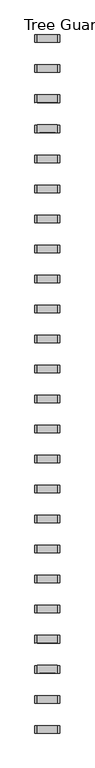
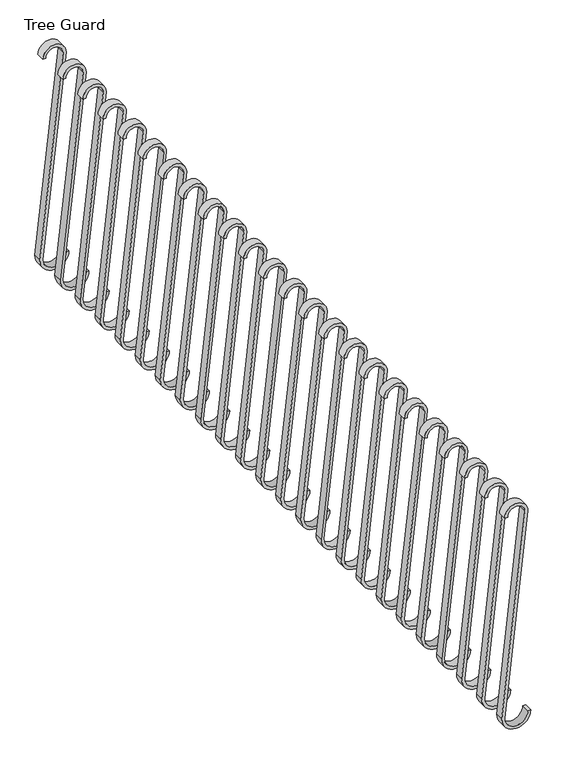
"""IFC4 building model written with IfcOpenShell, lengths in millimetres: railing geometry, Tree Guard."""

from ifc_helpers import new_model, si_unit, point, frame, frame_2d, origin, place, context, project, spatial, polyline, circle_curve, trimmed, segment, composite_curve, outline, extrude, source, transform, mapped, element, save


def tree_guard_6df655dc(model_context):
    return source(origin(), model_context, "Body", "SweptSolid", [
        extrude(outline(composite_curve([segment(trimmed(circle_curve(frame_2d((990.6, 9922.0129835)), 38.1), [point((990.6, 9883.9129835))], [point((991.2441257, 9960.1075383))], True, "CARTESIAN"), True, "CONTINUOUS"), segment(polyline([(991.2441257, 9960.1075383), (64.2323509, 9858.5172068)]), True, "CONTINUOUS"), segment(trimmed(circle_curve(frame_2d((63.5, 9922.0129835)), 63.5), [point((64.2323509, 9858.5172068))], [point((63.5, 9985.5129835))], False, "CARTESIAN"), True, "CONTINUOUS"), segment(polyline([(63.5, 9985.5129835), (63.5, 9972.8129835)]), True, "CONTINUOUS"), segment(trimmed(circle_curve(frame_2d((63.5, 9922.0129835)), 50.8), [point((63.5, 9972.8129835))], [point((63.5, 9871.2129835))], True, "CARTESIAN"), True, "CONTINUOUS"), segment(polyline([(63.5, 9871.2129835), (990.6, 9972.8129835)]), True, "CONTINUOUS"), segment(trimmed(circle_curve(frame_2d((990.6, 9922.0129835)), 50.8), [point((990.6, 9972.8129835))], [point((990.6, 9871.2129835))], False, "CARTESIAN"), True, "CONTINUOUS"), segment(polyline([(990.6, 9871.2129835), (990.6, 9883.9129835)]), True, "CONTINUOUS")], self_intersect=False)), frame((0.0, -8971.2643828, 0.0), z_axis=(0.0, 1.0, 0.0), x_axis=(0.0, 0.0, 1.0)), (0.0, 0.0, 1.0), 38.1),
        extrude(outline(composite_curve([segment(trimmed(circle_curve(frame_2d((990.6, 9922.0129835)), 38.1), [point((990.6, 9883.9129835))], [point((991.2441257, 9960.1075383))], True, "CARTESIAN"), True, "CONTINUOUS"), segment(polyline([(991.2441257, 9960.1075383), (64.2323509, 9858.5172068)]), True, "CONTINUOUS"), segment(trimmed(circle_curve(frame_2d((63.5, 9922.0129835)), 63.5), [point((64.2323509, 9858.5172068))], [point((63.5, 9985.5129835))], False, "CARTESIAN"), True, "CONTINUOUS"), segment(polyline([(63.5, 9985.5129835), (63.5, 9972.8129835)]), True, "CONTINUOUS"), segment(trimmed(circle_curve(frame_2d((63.5, 9922.0129835)), 50.8), [point((63.5, 9972.8129835))], [point((63.5, 9871.2129835))], True, "CARTESIAN"), True, "CONTINUOUS"), segment(polyline([(63.5, 9871.2129835), (990.6, 9972.8129835)]), True, "CONTINUOUS"), segment(trimmed(circle_curve(frame_2d((990.6, 9922.0129835)), 50.8), [point((990.6, 9972.8129835))], [point((990.6, 9871.2129835))], False, "CARTESIAN"), True, "CONTINUOUS"), segment(polyline([(990.6, 9871.2129835), (990.6, 9883.9129835)]), True, "CONTINUOUS")], self_intersect=False)), frame((0.0, -8818.8643828, 0.0), z_axis=(0.0, 1.0, 0.0), x_axis=(0.0, 0.0, 1.0)), (0.0, 0.0, 1.0), 38.1),
        extrude(outline(composite_curve([segment(trimmed(circle_curve(frame_2d((990.6, 9922.0129835)), 38.1), [point((990.6, 9883.9129835))], [point((991.2441257, 9960.1075383))], True, "CARTESIAN"), True, "CONTINUOUS"), segment(polyline([(991.2441257, 9960.1075383), (64.2323509, 9858.5172068)]), True, "CONTINUOUS"), segment(trimmed(circle_curve(frame_2d((63.5, 9922.0129835)), 63.5), [point((64.2323509, 9858.5172068))], [point((63.5, 9985.5129835))], False, "CARTESIAN"), True, "CONTINUOUS"), segment(polyline([(63.5, 9985.5129835), (63.5, 9972.8129835)]), True, "CONTINUOUS"), segment(trimmed(circle_curve(frame_2d((63.5, 9922.0129835)), 50.8), [point((63.5, 9972.8129835))], [point((63.5, 9871.2129835))], True, "CARTESIAN"), True, "CONTINUOUS"), segment(polyline([(63.5, 9871.2129835), (990.6, 9972.8129835)]), True, "CONTINUOUS"), segment(trimmed(circle_curve(frame_2d((990.6, 9922.0129835)), 50.8), [point((990.6, 9972.8129835))], [point((990.6, 9871.2129835))], False, "CARTESIAN"), True, "CONTINUOUS"), segment(polyline([(990.6, 9871.2129835), (990.6, 9883.9129835)]), True, "CONTINUOUS")], self_intersect=False)), frame((0.0, -8666.4643828, 0.0), z_axis=(0.0, 1.0, 0.0), x_axis=(0.0, 0.0, 1.0)), (0.0, 0.0, 1.0), 38.1),
        extrude(outline(composite_curve([segment(trimmed(circle_curve(frame_2d((990.6, 9922.0129835)), 38.1), [point((990.6, 9883.9129835))], [point((991.2441257, 9960.1075383))], True, "CARTESIAN"), True, "CONTINUOUS"), segment(polyline([(991.2441257, 9960.1075383), (64.2323509, 9858.5172068)]), True, "CONTINUOUS"), segment(trimmed(circle_curve(frame_2d((63.5, 9922.0129835)), 63.5), [point((64.2323509, 9858.5172068))], [point((63.5, 9985.5129835))], False, "CARTESIAN"), True, "CONTINUOUS"), segment(polyline([(63.5, 9985.5129835), (63.5, 9972.8129835)]), True, "CONTINUOUS"), segment(trimmed(circle_curve(frame_2d((63.5, 9922.0129835)), 50.8), [point((63.5, 9972.8129835))], [point((63.5, 9871.2129835))], True, "CARTESIAN"), True, "CONTINUOUS"), segment(polyline([(63.5, 9871.2129835), (990.6, 9972.8129835)]), True, "CONTINUOUS"), segment(trimmed(circle_curve(frame_2d((990.6, 9922.0129835)), 50.8), [point((990.6, 9972.8129835))], [point((990.6, 9871.2129835))], False, "CARTESIAN"), True, "CONTINUOUS"), segment(polyline([(990.6, 9871.2129835), (990.6, 9883.9129835)]), True, "CONTINUOUS")], self_intersect=False)), frame((0.0, -8514.0643828, 0.0), z_axis=(0.0, 1.0, 0.0), x_axis=(0.0, 0.0, 1.0)), (0.0, 0.0, 1.0), 38.1),
        extrude(outline(composite_curve([segment(trimmed(circle_curve(frame_2d((990.6, 9922.0129835)), 38.1), [point((990.6, 9883.9129835))], [point((991.2441257, 9960.1075383))], True, "CARTESIAN"), True, "CONTINUOUS"), segment(polyline([(991.2441257, 9960.1075383), (64.2323509, 9858.5172068)]), True, "CONTINUOUS"), segment(trimmed(circle_curve(frame_2d((63.5, 9922.0129835)), 63.5), [point((64.2323509, 9858.5172068))], [point((63.5, 9985.5129835))], False, "CARTESIAN"), True, "CONTINUOUS"), segment(polyline([(63.5, 9985.5129835), (63.5, 9972.8129835)]), True, "CONTINUOUS"), segment(trimmed(circle_curve(frame_2d((63.5, 9922.0129835)), 50.8), [point((63.5, 9972.8129835))], [point((63.5, 9871.2129835))], True, "CARTESIAN"), True, "CONTINUOUS"), segment(polyline([(63.5, 9871.2129835), (990.6, 9972.8129835)]), True, "CONTINUOUS"), segment(trimmed(circle_curve(frame_2d((990.6, 9922.0129835)), 50.8), [point((990.6, 9972.8129835))], [point((990.6, 9871.2129835))], False, "CARTESIAN"), True, "CONTINUOUS"), segment(polyline([(990.6, 9871.2129835), (990.6, 9883.9129835)]), True, "CONTINUOUS")], self_intersect=False)), frame((0.0, -8361.6643828, 0.0), z_axis=(0.0, 1.0, 0.0), x_axis=(0.0, 0.0, 1.0)), (0.0, 0.0, 1.0), 38.1),
        extrude(outline(composite_curve([segment(trimmed(circle_curve(frame_2d((990.6, 9922.0129835)), 38.1), [point((990.6, 9883.9129835))], [point((991.2441257, 9960.1075383))], True, "CARTESIAN"), True, "CONTINUOUS"), segment(polyline([(991.2441257, 9960.1075383), (64.2323509, 9858.5172068)]), True, "CONTINUOUS"), segment(trimmed(circle_curve(frame_2d((63.5, 9922.0129835)), 63.5), [point((64.2323509, 9858.5172068))], [point((63.5, 9985.5129835))], False, "CARTESIAN"), True, "CONTINUOUS"), segment(polyline([(63.5, 9985.5129835), (63.5, 9972.8129835)]), True, "CONTINUOUS"), segment(trimmed(circle_curve(frame_2d((63.5, 9922.0129835)), 50.8), [point((63.5, 9972.8129835))], [point((63.5, 9871.2129835))], True, "CARTESIAN"), True, "CONTINUOUS"), segment(polyline([(63.5, 9871.2129835), (990.6, 9972.8129835)]), True, "CONTINUOUS"), segment(trimmed(circle_curve(frame_2d((990.6, 9922.0129835)), 50.8), [point((990.6, 9972.8129835))], [point((990.6, 9871.2129835))], False, "CARTESIAN"), True, "CONTINUOUS"), segment(polyline([(990.6, 9871.2129835), (990.6, 9883.9129835)]), True, "CONTINUOUS")], self_intersect=False)), frame((0.0, -8209.2643828, 0.0), z_axis=(0.0, 1.0, 0.0), x_axis=(0.0, 0.0, 1.0)), (0.0, 0.0, 1.0), 38.1),
        extrude(outline(composite_curve([segment(trimmed(circle_curve(frame_2d((990.6, 9922.0129835)), 38.1), [point((990.6, 9883.9129835))], [point((991.2441257, 9960.1075383))], True, "CARTESIAN"), True, "CONTINUOUS"), segment(polyline([(991.2441257, 9960.1075383), (64.2323509, 9858.5172068)]), True, "CONTINUOUS"), segment(trimmed(circle_curve(frame_2d((63.5, 9922.0129835)), 63.5), [point((64.2323509, 9858.5172068))], [point((63.5, 9985.5129835))], False, "CARTESIAN"), True, "CONTINUOUS"), segment(polyline([(63.5, 9985.5129835), (63.5, 9972.8129835)]), True, "CONTINUOUS"), segment(trimmed(circle_curve(frame_2d((63.5, 9922.0129835)), 50.8), [point((63.5, 9972.8129835))], [point((63.5, 9871.2129835))], True, "CARTESIAN"), True, "CONTINUOUS"), segment(polyline([(63.5, 9871.2129835), (990.6, 9972.8129835)]), True, "CONTINUOUS"), segment(trimmed(circle_curve(frame_2d((990.6, 9922.0129835)), 50.8), [point((990.6, 9972.8129835))], [point((990.6, 9871.2129835))], False, "CARTESIAN"), True, "CONTINUOUS"), segment(polyline([(990.6, 9871.2129835), (990.6, 9883.9129835)]), True, "CONTINUOUS")], self_intersect=False)), frame((0.0, -8056.8643828, 0.0), z_axis=(0.0, 1.0, 0.0), x_axis=(0.0, 0.0, 1.0)), (0.0, 0.0, 1.0), 38.1),
        extrude(outline(composite_curve([segment(trimmed(circle_curve(frame_2d((990.6, 9922.0129835)), 38.1), [point((990.6, 9883.9129835))], [point((991.2441257, 9960.1075383))], True, "CARTESIAN"), True, "CONTINUOUS"), segment(polyline([(991.2441257, 9960.1075383), (64.2323509, 9858.5172068)]), True, "CONTINUOUS"), segment(trimmed(circle_curve(frame_2d((63.5, 9922.0129835)), 63.5), [point((64.2323509, 9858.5172068))], [point((63.5, 9985.5129835))], False, "CARTESIAN"), True, "CONTINUOUS"), segment(polyline([(63.5, 9985.5129835), (63.5, 9972.8129835)]), True, "CONTINUOUS"), segment(trimmed(circle_curve(frame_2d((63.5, 9922.0129835)), 50.8), [point((63.5, 9972.8129835))], [point((63.5, 9871.2129835))], True, "CARTESIAN"), True, "CONTINUOUS"), segment(polyline([(63.5, 9871.2129835), (990.6, 9972.8129835)]), True, "CONTINUOUS"), segment(trimmed(circle_curve(frame_2d((990.6, 9922.0129835)), 50.8), [point((990.6, 9972.8129835))], [point((990.6, 9871.2129835))], False, "CARTESIAN"), True, "CONTINUOUS"), segment(polyline([(990.6, 9871.2129835), (990.6, 9883.9129835)]), True, "CONTINUOUS")], self_intersect=False)), frame((0.0, -7904.4643828, 0.0), z_axis=(0.0, 1.0, 0.0), x_axis=(0.0, 0.0, 1.0)), (0.0, 0.0, 1.0), 38.1),
        extrude(outline(composite_curve([segment(trimmed(circle_curve(frame_2d((990.6, 9922.0129835)), 38.1), [point((990.6, 9883.9129835))], [point((991.2441257, 9960.1075383))], True, "CARTESIAN"), True, "CONTINUOUS"), segment(polyline([(991.2441257, 9960.1075383), (64.2323509, 9858.5172068)]), True, "CONTINUOUS"), segment(trimmed(circle_curve(frame_2d((63.5, 9922.0129835)), 63.5), [point((64.2323509, 9858.5172068))], [point((63.5, 9985.5129835))], False, "CARTESIAN"), True, "CONTINUOUS"), segment(polyline([(63.5, 9985.5129835), (63.5, 9972.8129835)]), True, "CONTINUOUS"), segment(trimmed(circle_curve(frame_2d((63.5, 9922.0129835)), 50.8), [point((63.5, 9972.8129835))], [point((63.5, 9871.2129835))], True, "CARTESIAN"), True, "CONTINUOUS"), segment(polyline([(63.5, 9871.2129835), (990.6, 9972.8129835)]), True, "CONTINUOUS"), segment(trimmed(circle_curve(frame_2d((990.6, 9922.0129835)), 50.8), [point((990.6, 9972.8129835))], [point((990.6, 9871.2129835))], False, "CARTESIAN"), True, "CONTINUOUS"), segment(polyline([(990.6, 9871.2129835), (990.6, 9883.9129835)]), True, "CONTINUOUS")], self_intersect=False)), frame((0.0, -7752.0643828, 0.0), z_axis=(0.0, 1.0, 0.0), x_axis=(0.0, 0.0, 1.0)), (0.0, 0.0, 1.0), 38.1),
        extrude(outline(composite_curve([segment(trimmed(circle_curve(frame_2d((990.6, 9922.0129835)), 38.1), [point((990.6, 9883.9129835))], [point((991.2441257, 9960.1075383))], True, "CARTESIAN"), True, "CONTINUOUS"), segment(polyline([(991.2441257, 9960.1075383), (64.2323509, 9858.5172068)]), True, "CONTINUOUS"), segment(trimmed(circle_curve(frame_2d((63.5, 9922.0129835)), 63.5), [point((64.2323509, 9858.5172068))], [point((63.5, 9985.5129835))], False, "CARTESIAN"), True, "CONTINUOUS"), segment(polyline([(63.5, 9985.5129835), (63.5, 9972.8129835)]), True, "CONTINUOUS"), segment(trimmed(circle_curve(frame_2d((63.5, 9922.0129835)), 50.8), [point((63.5, 9972.8129835))], [point((63.5, 9871.2129835))], True, "CARTESIAN"), True, "CONTINUOUS"), segment(polyline([(63.5, 9871.2129835), (990.6, 9972.8129835)]), True, "CONTINUOUS"), segment(trimmed(circle_curve(frame_2d((990.6, 9922.0129835)), 50.8), [point((990.6, 9972.8129835))], [point((990.6, 9871.2129835))], False, "CARTESIAN"), True, "CONTINUOUS"), segment(polyline([(990.6, 9871.2129835), (990.6, 9883.9129835)]), True, "CONTINUOUS")], self_intersect=False)), frame((0.0, -7599.6643828, 0.0), z_axis=(0.0, 1.0, 0.0), x_axis=(0.0, 0.0, 1.0)), (0.0, 0.0, 1.0), 38.1),
        extrude(outline(composite_curve([segment(trimmed(circle_curve(frame_2d((990.6, 9922.0129835)), 38.1), [point((990.6, 9883.9129835))], [point((991.2441257, 9960.1075383))], True, "CARTESIAN"), True, "CONTINUOUS"), segment(polyline([(991.2441257, 9960.1075383), (64.2323509, 9858.5172068)]), True, "CONTINUOUS"), segment(trimmed(circle_curve(frame_2d((63.5, 9922.0129835)), 63.5), [point((64.2323509, 9858.5172068))], [point((63.5, 9985.5129835))], False, "CARTESIAN"), True, "CONTINUOUS"), segment(polyline([(63.5, 9985.5129835), (63.5, 9972.8129835)]), True, "CONTINUOUS"), segment(trimmed(circle_curve(frame_2d((63.5, 9922.0129835)), 50.8), [point((63.5, 9972.8129835))], [point((63.5, 9871.2129835))], True, "CARTESIAN"), True, "CONTINUOUS"), segment(polyline([(63.5, 9871.2129835), (990.6, 9972.8129835)]), True, "CONTINUOUS"), segment(trimmed(circle_curve(frame_2d((990.6, 9922.0129835)), 50.8), [point((990.6, 9972.8129835))], [point((990.6, 9871.2129835))], False, "CARTESIAN"), True, "CONTINUOUS"), segment(polyline([(990.6, 9871.2129835), (990.6, 9883.9129835)]), True, "CONTINUOUS")], self_intersect=False)), frame((0.0, -7447.2643828, 0.0), z_axis=(0.0, 1.0, 0.0), x_axis=(0.0, 0.0, 1.0)), (0.0, 0.0, 1.0), 38.1),
        extrude(outline(composite_curve([segment(trimmed(circle_curve(frame_2d((990.6, 9922.0129835)), 38.1), [point((990.6, 9883.9129835))], [point((991.2441257, 9960.1075383))], True, "CARTESIAN"), True, "CONTINUOUS"), segment(polyline([(991.2441257, 9960.1075383), (64.2323509, 9858.5172068)]), True, "CONTINUOUS"), segment(trimmed(circle_curve(frame_2d((63.5, 9922.0129835)), 63.5), [point((64.2323509, 9858.5172068))], [point((63.5, 9985.5129835))], False, "CARTESIAN"), True, "CONTINUOUS"), segment(polyline([(63.5, 9985.5129835), (63.5, 9972.8129835)]), True, "CONTINUOUS"), segment(trimmed(circle_curve(frame_2d((63.5, 9922.0129835)), 50.8), [point((63.5, 9972.8129835))], [point((63.5, 9871.2129835))], True, "CARTESIAN"), True, "CONTINUOUS"), segment(polyline([(63.5, 9871.2129835), (990.6, 9972.8129835)]), True, "CONTINUOUS"), segment(trimmed(circle_curve(frame_2d((990.6, 9922.0129835)), 50.8), [point((990.6, 9972.8129835))], [point((990.6, 9871.2129835))], False, "CARTESIAN"), True, "CONTINUOUS"), segment(polyline([(990.6, 9871.2129835), (990.6, 9883.9129835)]), True, "CONTINUOUS")], self_intersect=False)), frame((0.0, -7294.8643828, 0.0), z_axis=(0.0, 1.0, 0.0), x_axis=(0.0, 0.0, 1.0)), (0.0, 0.0, 1.0), 38.1),
        extrude(outline(composite_curve([segment(trimmed(circle_curve(frame_2d((990.6, 9922.0129835)), 38.1), [point((990.6, 9883.9129835))], [point((991.2441257, 9960.1075383))], True, "CARTESIAN"), True, "CONTINUOUS"), segment(polyline([(991.2441257, 9960.1075383), (64.2323509, 9858.5172068)]), True, "CONTINUOUS"), segment(trimmed(circle_curve(frame_2d((63.5, 9922.0129835)), 63.5), [point((64.2323509, 9858.5172068))], [point((63.5, 9985.5129835))], False, "CARTESIAN"), True, "CONTINUOUS"), segment(polyline([(63.5, 9985.5129835), (63.5, 9972.8129835)]), True, "CONTINUOUS"), segment(trimmed(circle_curve(frame_2d((63.5, 9922.0129835)), 50.8), [point((63.5, 9972.8129835))], [point((63.5, 9871.2129835))], True, "CARTESIAN"), True, "CONTINUOUS"), segment(polyline([(63.5, 9871.2129835), (990.6, 9972.8129835)]), True, "CONTINUOUS"), segment(trimmed(circle_curve(frame_2d((990.6, 9922.0129835)), 50.8), [point((990.6, 9972.8129835))], [point((990.6, 9871.2129835))], False, "CARTESIAN"), True, "CONTINUOUS"), segment(polyline([(990.6, 9871.2129835), (990.6, 9883.9129835)]), True, "CONTINUOUS")], self_intersect=False)), frame((0.0, -7142.4643828, 0.0), z_axis=(0.0, 1.0, 0.0), x_axis=(0.0, 0.0, 1.0)), (0.0, 0.0, 1.0), 38.1),
        extrude(outline(composite_curve([segment(trimmed(circle_curve(frame_2d((990.6, 9922.0129835)), 38.1), [point((990.6, 9883.9129835))], [point((991.2441257, 9960.1075383))], True, "CARTESIAN"), True, "CONTINUOUS"), segment(polyline([(991.2441257, 9960.1075383), (64.2323509, 9858.5172068)]), True, "CONTINUOUS"), segment(trimmed(circle_curve(frame_2d((63.5, 9922.0129835)), 63.5), [point((64.2323509, 9858.5172068))], [point((63.5, 9985.5129835))], False, "CARTESIAN"), True, "CONTINUOUS"), segment(polyline([(63.5, 9985.5129835), (63.5, 9972.8129835)]), True, "CONTINUOUS"), segment(trimmed(circle_curve(frame_2d((63.5, 9922.0129835)), 50.8), [point((63.5, 9972.8129835))], [point((63.5, 9871.2129835))], True, "CARTESIAN"), True, "CONTINUOUS"), segment(polyline([(63.5, 9871.2129835), (990.6, 9972.8129835)]), True, "CONTINUOUS"), segment(trimmed(circle_curve(frame_2d((990.6, 9922.0129835)), 50.8), [point((990.6, 9972.8129835))], [point((990.6, 9871.2129835))], False, "CARTESIAN"), True, "CONTINUOUS"), segment(polyline([(990.6, 9871.2129835), (990.6, 9883.9129835)]), True, "CONTINUOUS")], self_intersect=False)), frame((0.0, -6990.0643828, 0.0), z_axis=(0.0, 1.0, 0.0), x_axis=(0.0, 0.0, 1.0)), (0.0, 0.0, 1.0), 38.1),
        extrude(outline(composite_curve([segment(trimmed(circle_curve(frame_2d((990.6, 9922.0129835)), 38.1), [point((990.6, 9883.9129835))], [point((991.2441257, 9960.1075383))], True, "CARTESIAN"), True, "CONTINUOUS"), segment(polyline([(991.2441257, 9960.1075383), (64.2323509, 9858.5172068)]), True, "CONTINUOUS"), segment(trimmed(circle_curve(frame_2d((63.5, 9922.0129835)), 63.5), [point((64.2323509, 9858.5172068))], [point((63.5, 9985.5129835))], False, "CARTESIAN"), True, "CONTINUOUS"), segment(polyline([(63.5, 9985.5129835), (63.5, 9972.8129835)]), True, "CONTINUOUS"), segment(trimmed(circle_curve(frame_2d((63.5, 9922.0129835)), 50.8), [point((63.5, 9972.8129835))], [point((63.5, 9871.2129835))], True, "CARTESIAN"), True, "CONTINUOUS"), segment(polyline([(63.5, 9871.2129835), (990.6, 9972.8129835)]), True, "CONTINUOUS"), segment(trimmed(circle_curve(frame_2d((990.6, 9922.0129835)), 50.8), [point((990.6, 9972.8129835))], [point((990.6, 9871.2129835))], False, "CARTESIAN"), True, "CONTINUOUS"), segment(polyline([(990.6, 9871.2129835), (990.6, 9883.9129835)]), True, "CONTINUOUS")], self_intersect=False)), frame((0.0, -6837.6643828, 0.0), z_axis=(0.0, 1.0, 0.0), x_axis=(0.0, 0.0, 1.0)), (0.0, 0.0, 1.0), 38.1),
        extrude(outline(composite_curve([segment(trimmed(circle_curve(frame_2d((990.6, 9922.0129835)), 38.1), [point((990.6, 9883.9129835))], [point((991.2441257, 9960.1075383))], True, "CARTESIAN"), True, "CONTINUOUS"), segment(polyline([(991.2441257, 9960.1075383), (64.2323509, 9858.5172068)]), True, "CONTINUOUS"), segment(trimmed(circle_curve(frame_2d((63.5, 9922.0129835)), 63.5), [point((64.2323509, 9858.5172068))], [point((63.5, 9985.5129835))], False, "CARTESIAN"), True, "CONTINUOUS"), segment(polyline([(63.5, 9985.5129835), (63.5, 9972.8129835)]), True, "CONTINUOUS"), segment(trimmed(circle_curve(frame_2d((63.5, 9922.0129835)), 50.8), [point((63.5, 9972.8129835))], [point((63.5, 9871.2129835))], True, "CARTESIAN"), True, "CONTINUOUS"), segment(polyline([(63.5, 9871.2129835), (990.6, 9972.8129835)]), True, "CONTINUOUS"), segment(trimmed(circle_curve(frame_2d((990.6, 9922.0129835)), 50.8), [point((990.6, 9972.8129835))], [point((990.6, 9871.2129835))], False, "CARTESIAN"), True, "CONTINUOUS"), segment(polyline([(990.6, 9871.2129835), (990.6, 9883.9129835)]), True, "CONTINUOUS")], self_intersect=False)), frame((0.0, -6685.2643828, 0.0), z_axis=(0.0, 1.0, 0.0), x_axis=(0.0, 0.0, 1.0)), (0.0, 0.0, 1.0), 38.1),
        extrude(outline(composite_curve([segment(trimmed(circle_curve(frame_2d((990.6, 9922.0129835)), 38.1), [point((990.6, 9883.9129835))], [point((991.2441257, 9960.1075383))], True, "CARTESIAN"), True, "CONTINUOUS"), segment(polyline([(991.2441257, 9960.1075383), (64.2323509, 9858.5172068)]), True, "CONTINUOUS"), segment(trimmed(circle_curve(frame_2d((63.5, 9922.0129835)), 63.5), [point((64.2323509, 9858.5172068))], [point((63.5, 9985.5129835))], False, "CARTESIAN"), True, "CONTINUOUS"), segment(polyline([(63.5, 9985.5129835), (63.5, 9972.8129835)]), True, "CONTINUOUS"), segment(trimmed(circle_curve(frame_2d((63.5, 9922.0129835)), 50.8), [point((63.5, 9972.8129835))], [point((63.5, 9871.2129835))], True, "CARTESIAN"), True, "CONTINUOUS"), segment(polyline([(63.5, 9871.2129835), (990.6, 9972.8129835)]), True, "CONTINUOUS"), segment(trimmed(circle_curve(frame_2d((990.6, 9922.0129835)), 50.8), [point((990.6, 9972.8129835))], [point((990.6, 9871.2129835))], False, "CARTESIAN"), True, "CONTINUOUS"), segment(polyline([(990.6, 9871.2129835), (990.6, 9883.9129835)]), True, "CONTINUOUS")], self_intersect=False)), frame((0.0, -6532.8643828, 0.0), z_axis=(0.0, 1.0, 0.0), x_axis=(0.0, 0.0, 1.0)), (0.0, 0.0, 1.0), 38.1),
        extrude(outline(composite_curve([segment(trimmed(circle_curve(frame_2d((990.6, 9922.0129835)), 38.1), [point((990.6, 9883.9129835))], [point((991.2441257, 9960.1075383))], True, "CARTESIAN"), True, "CONTINUOUS"), segment(polyline([(991.2441257, 9960.1075383), (64.2323509, 9858.5172068)]), True, "CONTINUOUS"), segment(trimmed(circle_curve(frame_2d((63.5, 9922.0129835)), 63.5), [point((64.2323509, 9858.5172068))], [point((63.5, 9985.5129835))], False, "CARTESIAN"), True, "CONTINUOUS"), segment(polyline([(63.5, 9985.5129835), (63.5, 9972.8129835)]), True, "CONTINUOUS"), segment(trimmed(circle_curve(frame_2d((63.5, 9922.0129835)), 50.8), [point((63.5, 9972.8129835))], [point((63.5, 9871.2129835))], True, "CARTESIAN"), True, "CONTINUOUS"), segment(polyline([(63.5, 9871.2129835), (990.6, 9972.8129835)]), True, "CONTINUOUS"), segment(trimmed(circle_curve(frame_2d((990.6, 9922.0129835)), 50.8), [point((990.6, 9972.8129835))], [point((990.6, 9871.2129835))], False, "CARTESIAN"), True, "CONTINUOUS"), segment(polyline([(990.6, 9871.2129835), (990.6, 9883.9129835)]), True, "CONTINUOUS")], self_intersect=False)), frame((0.0, -6380.4643828, 0.0), z_axis=(0.0, 1.0, 0.0), x_axis=(0.0, 0.0, 1.0)), (0.0, 0.0, 1.0), 38.1),
        extrude(outline(composite_curve([segment(trimmed(circle_curve(frame_2d((990.6, 9922.0129835)), 38.1), [point((990.6, 9883.9129835))], [point((991.2441257, 9960.1075383))], True, "CARTESIAN"), True, "CONTINUOUS"), segment(polyline([(991.2441257, 9960.1075383), (64.2323509, 9858.5172068)]), True, "CONTINUOUS"), segment(trimmed(circle_curve(frame_2d((63.5, 9922.0129835)), 63.5), [point((64.2323509, 9858.5172068))], [point((63.5, 9985.5129835))], False, "CARTESIAN"), True, "CONTINUOUS"), segment(polyline([(63.5, 9985.5129835), (63.5, 9972.8129835)]), True, "CONTINUOUS"), segment(trimmed(circle_curve(frame_2d((63.5, 9922.0129835)), 50.8), [point((63.5, 9972.8129835))], [point((63.5, 9871.2129835))], True, "CARTESIAN"), True, "CONTINUOUS"), segment(polyline([(63.5, 9871.2129835), (990.6, 9972.8129835)]), True, "CONTINUOUS"), segment(trimmed(circle_curve(frame_2d((990.6, 9922.0129835)), 50.8), [point((990.6, 9972.8129835))], [point((990.6, 9871.2129835))], False, "CARTESIAN"), True, "CONTINUOUS"), segment(polyline([(990.6, 9871.2129835), (990.6, 9883.9129835)]), True, "CONTINUOUS")], self_intersect=False)), frame((0.0, -6228.0643828, 0.0), z_axis=(0.0, 1.0, 0.0), x_axis=(0.0, 0.0, 1.0)), (0.0, 0.0, 1.0), 38.1),
        extrude(outline(composite_curve([segment(trimmed(circle_curve(frame_2d((990.6, 9922.0129835)), 38.1), [point((990.6, 9883.9129835))], [point((991.2441257, 9960.1075383))], True, "CARTESIAN"), True, "CONTINUOUS"), segment(polyline([(991.2441257, 9960.1075383), (64.2323509, 9858.5172068)]), True, "CONTINUOUS"), segment(trimmed(circle_curve(frame_2d((63.5, 9922.0129835)), 63.5), [point((64.2323509, 9858.5172068))], [point((63.5, 9985.5129835))], False, "CARTESIAN"), True, "CONTINUOUS"), segment(polyline([(63.5, 9985.5129835), (63.5, 9972.8129835)]), True, "CONTINUOUS"), segment(trimmed(circle_curve(frame_2d((63.5, 9922.0129835)), 50.8), [point((63.5, 9972.8129835))], [point((63.5, 9871.2129835))], True, "CARTESIAN"), True, "CONTINUOUS"), segment(polyline([(63.5, 9871.2129835), (990.6, 9972.8129835)]), True, "CONTINUOUS"), segment(trimmed(circle_curve(frame_2d((990.6, 9922.0129835)), 50.8), [point((990.6, 9972.8129835))], [point((990.6, 9871.2129835))], False, "CARTESIAN"), True, "CONTINUOUS"), segment(polyline([(990.6, 9871.2129835), (990.6, 9883.9129835)]), True, "CONTINUOUS")], self_intersect=False)), frame((0.0, -6075.6643828, 0.0), z_axis=(0.0, 1.0, 0.0), x_axis=(0.0, 0.0, 1.0)), (0.0, 0.0, 1.0), 38.1),
        extrude(outline(composite_curve([segment(trimmed(circle_curve(frame_2d((990.6, 9922.0129835)), 38.1), [point((990.6, 9883.9129835))], [point((991.2441257, 9960.1075383))], True, "CARTESIAN"), True, "CONTINUOUS"), segment(polyline([(991.2441257, 9960.1075383), (64.2323509, 9858.5172068)]), True, "CONTINUOUS"), segment(trimmed(circle_curve(frame_2d((63.5, 9922.0129835)), 63.5), [point((64.2323509, 9858.5172068))], [point((63.5, 9985.5129835))], False, "CARTESIAN"), True, "CONTINUOUS"), segment(polyline([(63.5, 9985.5129835), (63.5, 9972.8129835)]), True, "CONTINUOUS"), segment(trimmed(circle_curve(frame_2d((63.5, 9922.0129835)), 50.8), [point((63.5, 9972.8129835))], [point((63.5, 9871.2129835))], True, "CARTESIAN"), True, "CONTINUOUS"), segment(polyline([(63.5, 9871.2129835), (990.6, 9972.8129835)]), True, "CONTINUOUS"), segment(trimmed(circle_curve(frame_2d((990.6, 9922.0129835)), 50.8), [point((990.6, 9972.8129835))], [point((990.6, 9871.2129835))], False, "CARTESIAN"), True, "CONTINUOUS"), segment(polyline([(990.6, 9871.2129835), (990.6, 9883.9129835)]), True, "CONTINUOUS")], self_intersect=False)), frame((0.0, -5923.2643828, 0.0), z_axis=(0.0, 1.0, 0.0), x_axis=(0.0, 0.0, 1.0)), (0.0, 0.0, 1.0), 38.1),
        extrude(outline(composite_curve([segment(trimmed(circle_curve(frame_2d((990.6, 9922.0129835)), 38.1), [point((990.6, 9883.9129835))], [point((991.2441257, 9960.1075383))], True, "CARTESIAN"), True, "CONTINUOUS"), segment(polyline([(991.2441257, 9960.1075383), (64.2323509, 9858.5172068)]), True, "CONTINUOUS"), segment(trimmed(circle_curve(frame_2d((63.5, 9922.0129835)), 63.5), [point((64.2323509, 9858.5172068))], [point((63.5, 9985.5129835))], False, "CARTESIAN"), True, "CONTINUOUS"), segment(polyline([(63.5, 9985.5129835), (63.5, 9972.8129835)]), True, "CONTINUOUS"), segment(trimmed(circle_curve(frame_2d((63.5, 9922.0129835)), 50.8), [point((63.5, 9972.8129835))], [point((63.5, 9871.2129835))], True, "CARTESIAN"), True, "CONTINUOUS"), segment(polyline([(63.5, 9871.2129835), (990.6, 9972.8129835)]), True, "CONTINUOUS"), segment(trimmed(circle_curve(frame_2d((990.6, 9922.0129835)), 50.8), [point((990.6, 9972.8129835))], [point((990.6, 9871.2129835))], False, "CARTESIAN"), True, "CONTINUOUS"), segment(polyline([(990.6, 9871.2129835), (990.6, 9883.9129835)]), True, "CONTINUOUS")], self_intersect=False)), frame((0.0, -5770.8643828, 0.0), z_axis=(0.0, 1.0, 0.0), x_axis=(0.0, 0.0, 1.0)), (0.0, 0.0, 1.0), 38.1),
        extrude(outline(composite_curve([segment(trimmed(circle_curve(frame_2d((990.6, 9922.0129835)), 38.1), [point((990.6, 9883.9129835))], [point((991.2441257, 9960.1075383))], True, "CARTESIAN"), True, "CONTINUOUS"), segment(polyline([(991.2441257, 9960.1075383), (64.2323509, 9858.5172068)]), True, "CONTINUOUS"), segment(trimmed(circle_curve(frame_2d((63.5, 9922.0129835)), 63.5), [point((64.2323509, 9858.5172068))], [point((63.5, 9985.5129835))], False, "CARTESIAN"), True, "CONTINUOUS"), segment(polyline([(63.5, 9985.5129835), (63.5, 9972.8129835)]), True, "CONTINUOUS"), segment(trimmed(circle_curve(frame_2d((63.5, 9922.0129835)), 50.8), [point((63.5, 9972.8129835))], [point((63.5, 9871.2129835))], True, "CARTESIAN"), True, "CONTINUOUS"), segment(polyline([(63.5, 9871.2129835), (990.6, 9972.8129835)]), True, "CONTINUOUS"), segment(trimmed(circle_curve(frame_2d((990.6, 9922.0129835)), 50.8), [point((990.6, 9972.8129835))], [point((990.6, 9871.2129835))], False, "CARTESIAN"), True, "CONTINUOUS"), segment(polyline([(990.6, 9871.2129835), (990.6, 9883.9129835)]), True, "CONTINUOUS")], self_intersect=False)), frame((0.0, -5618.4643828, 0.0), z_axis=(0.0, 1.0, 0.0), x_axis=(0.0, 0.0, 1.0)), (0.0, 0.0, 1.0), 38.1),
        extrude(outline(composite_curve([segment(trimmed(circle_curve(frame_2d((990.6, 9922.0129835)), 38.1), [point((990.6, 9883.9129835))], [point((991.2441257, 9960.1075383))], True, "CARTESIAN"), True, "CONTINUOUS"), segment(polyline([(991.2441257, 9960.1075383), (64.2323509, 9858.5172068)]), True, "CONTINUOUS"), segment(trimmed(circle_curve(frame_2d((63.5, 9922.0129835)), 63.5), [point((64.2323509, 9858.5172068))], [point((63.5, 9985.5129835))], False, "CARTESIAN"), True, "CONTINUOUS"), segment(polyline([(63.5, 9985.5129835), (63.5, 9972.8129835)]), True, "CONTINUOUS"), segment(trimmed(circle_curve(frame_2d((63.5, 9922.0129835)), 50.8), [point((63.5, 9972.8129835))], [point((63.5, 9871.2129835))], True, "CARTESIAN"), True, "CONTINUOUS"), segment(polyline([(63.5, 9871.2129835), (990.6, 9972.8129835)]), True, "CONTINUOUS"), segment(trimmed(circle_curve(frame_2d((990.6, 9922.0129835)), 50.8), [point((990.6, 9972.8129835))], [point((990.6, 9871.2129835))], False, "CARTESIAN"), True, "CONTINUOUS"), segment(polyline([(990.6, 9871.2129835), (990.6, 9883.9129835)]), True, "CONTINUOUS")], self_intersect=False)), frame((0.0, -5466.0643828, 0.0), z_axis=(0.0, 1.0, 0.0), x_axis=(0.0, 0.0, 1.0)), (0.0, 0.0, 1.0), 38.1),
    ])


if __name__ == "__main__":
    model = new_model("IFC4")
    model_context = context("Model", 3, world=origin())
    ifc_project = project(units=[si_unit("LENGTHUNIT", "METRE", prefix="MILLI")], contexts=[model_context])
    site = spatial("IfcSite", under=ifc_project)
    building = spatial("IfcBuilding", under=site)
    placement = place(None, origin())
    tree_guard_shape = tree_guard_6df655dc(model_context)
    element("IfcRailing", 1, ObjectType="Tree Guard", at=placement, inside=building, context=model_context, shape_type="MappedRepresentation", body=[
        mapped(tree_guard_shape, transform((0.0, 0.0, 0.0), x_axis=(1.0, 0.0, 0.0), y_axis=(0.0, 1.0, 0.0), z_axis=(0.0, 0.0, 1.0))),
    ])
    save(model, "model.ifc")
